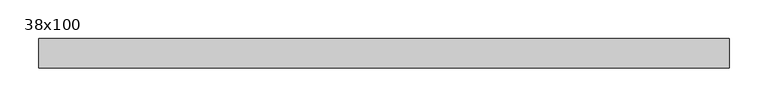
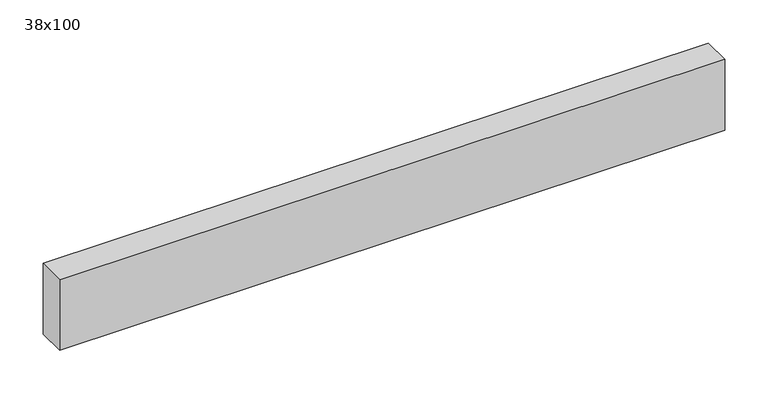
"""IFC4 building model written with IfcOpenShell, lengths in millimetres: beam geometry, Poutre - Bois de construction de dimensions courantes : 38x100."""

from ifc_helpers import new_model, si_unit, frame, origin, place, context, project, spatial, polyline, outline, extrude, source, transform, mapped, element, save


def beam_38x100_b153c515(model_context):
    return source(origin(), model_context, "Body", "SweptSolid", [
        extrude(outline(polyline([(440.0, 19.05), (440.0, -19.05), (-450.0, -19.05), (-450.0, 19.05), (440.0, 19.05)])), frame((0.0, 0.0, -50.0), z_axis=(0.0, 0.0, 1.0), x_axis=(1.0, 0.0, 0.0)), (0.0, 0.0, 1.0), 100.0),
    ])


if __name__ == "__main__":
    model = new_model("IFC4")
    model_context = context("Model", 3, world=origin())
    ifc_project = project(units=[si_unit("LENGTHUNIT", "METRE", prefix="MILLI")], contexts=[model_context])
    site = spatial("IfcSite", under=ifc_project)
    building = spatial("IfcBuilding", under=site)
    placement = place(None, origin())
    beam_38x100_shape = beam_38x100_b153c515(model_context)
    element("IfcBeam", 1, ObjectType="Poutre - Bois de construction de dimensions courantes : 38x100", at=placement, inside=building, context=model_context, shape_type="MappedRepresentation", body=[
        mapped(beam_38x100_shape, transform((0.0, 0.0, 0.0), x_axis=(1.0, 0.0, 0.0), y_axis=(0.0, 1.0, 0.0), z_axis=(0.0, 0.0, 1.0))),
    ])
    save(model, "model.ifc")
